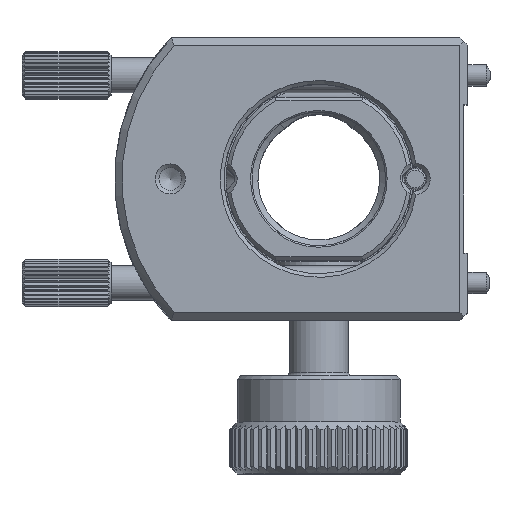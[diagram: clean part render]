
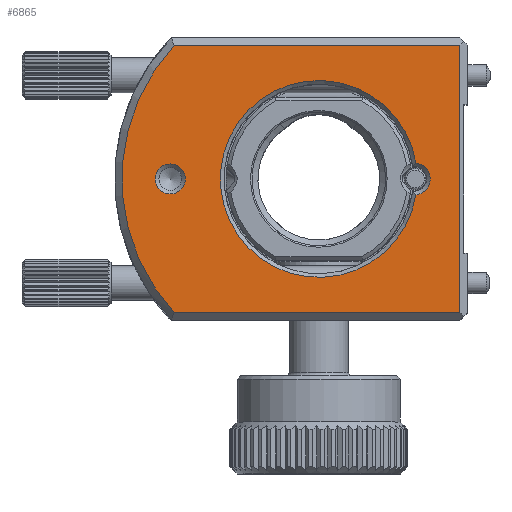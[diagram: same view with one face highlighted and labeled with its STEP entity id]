
A CAD part, top view. The second image highlights one B-rep face of the part: STEP entity #6865.
In plain terms, the highlighted planar face has unit normal (0, 0, 1).
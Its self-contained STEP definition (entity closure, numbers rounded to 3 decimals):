
#6865=ADVANCED_FACE('',(#13256,#13257,#13258),#7882,.T.);
#7882=PLANE('',#31266);
#9407=LINE('',#44863,#11637);
#9408=LINE('',#44866,#11638);
#9409=LINE('',#44870,#11639);
#11637=VECTOR('',#35450,1.);
#11638=VECTOR('',#35451,1.);
#11639=VECTOR('',#35454,1.);
#13256=FACE_BOUND('',#14324,.T.);
#13257=FACE_BOUND('',#14325,.T.);
#13258=FACE_BOUND('',#14326,.T.);
#14324=EDGE_LOOP('',(#19053));
#14325=EDGE_LOOP('',(#19054,#19055));
#14326=EDGE_LOOP('',(#19056,#19057,#19058,#19059));
#19053=ORIENTED_EDGE('',*,*,#27582,.T.);
#19054=ORIENTED_EDGE('',*,*,#27583,.T.);
#19055=ORIENTED_EDGE('',*,*,#27584,.T.);
#19056=ORIENTED_EDGE('',*,*,#27585,.T.);
#19057=ORIENTED_EDGE('',*,*,#27586,.T.);
#19058=ORIENTED_EDGE('',*,*,#27587,.T.);
#19059=ORIENTED_EDGE('',*,*,#27588,.T.);
#24386=VERTEX_POINT('',#44858);
#24387=VERTEX_POINT('',#44860);
#24388=VERTEX_POINT('',#44861);
#24389=VERTEX_POINT('',#44864);
#24390=VERTEX_POINT('',#44865);
#24391=VERTEX_POINT('',#44867);
#24392=VERTEX_POINT('',#44869);
#27582=EDGE_CURVE('',#24386,#24386,#29889,.T.);
#27583=EDGE_CURVE('',#24387,#24388,#29890,.T.);
#27584=EDGE_CURVE('',#24388,#24387,#29891,.T.);
#27585=EDGE_CURVE('',#24389,#24390,#9407,.T.);
#27586=EDGE_CURVE('',#24390,#24391,#9408,.T.);
#27587=EDGE_CURVE('',#24391,#24392,#29892,.T.);
#27588=EDGE_CURVE('',#24392,#24389,#9409,.T.);
#29889=CIRCLE('',#31262,2.025);
#29890=CIRCLE('',#31263,2.15);
#29891=CIRCLE('',#31264,13.25);
#29892=CIRCLE('',#31265,26.5);
#31262=AXIS2_PLACEMENT_3D('',#44857,#35444,#35445);
#31263=AXIS2_PLACEMENT_3D('',#44859,#35446,#35447);
#31264=AXIS2_PLACEMENT_3D('',#44862,#35448,#35449);
#31265=AXIS2_PLACEMENT_3D('',#44868,#35452,#35453);
#31266=AXIS2_PLACEMENT_3D('',#44871,#35455,#35456);
#35444=DIRECTION('',(0.,0.,-1.));
#35445=DIRECTION('',(-1.,0.,0.));
#35446=DIRECTION('',(0.,0.,-1.));
#35447=DIRECTION('',(-1.,0.,0.));
#35448=DIRECTION('',(0.,0.,-1.));
#35449=DIRECTION('',(-1.,0.,0.));
#35450=DIRECTION('',(0.,1.,0.));
#35451=DIRECTION('',(-1.,0.,0.));
#35452=DIRECTION('',(0.,0.,1.));
#35453=DIRECTION('',(-1.,0.,0.));
#35454=DIRECTION('',(1.,0.,0.));
#35455=DIRECTION('',(0.,0.,1.));
#35456=DIRECTION('',(-1.,0.,0.));
#44857=CARTESIAN_POINT('',(-56.932,28.798,-33.023));
#44858=CARTESIAN_POINT('',(-58.957,28.798,-33.023));
#44859=CARTESIAN_POINT('',(-24.08,28.798,-33.023));
#44860=CARTESIAN_POINT('',(-23.856,30.936,-33.023));
#44861=CARTESIAN_POINT('',(-23.856,26.66,-33.023));
#44862=CARTESIAN_POINT('',(-36.932,28.798,-33.023));
#44863=CARTESIAN_POINT('',(-17.928,18.798,-33.023));
#44864=CARTESIAN_POINT('',(-17.928,10.798,-33.023));
#44865=CARTESIAN_POINT('',(-17.928,46.798,-33.023));
#44866=CARTESIAN_POINT('',(-56.813,46.798,-33.023));
#44867=CARTESIAN_POINT('',(-56.381,46.798,-33.023));
#44868=CARTESIAN_POINT('',(-36.932,28.798,-33.023));
#44869=CARTESIAN_POINT('',(-56.381,10.798,-33.023));
#44870=CARTESIAN_POINT('',(-16.928,10.798,-33.023));
#44871=CARTESIAN_POINT('',(-36.932,28.798,-33.023));
